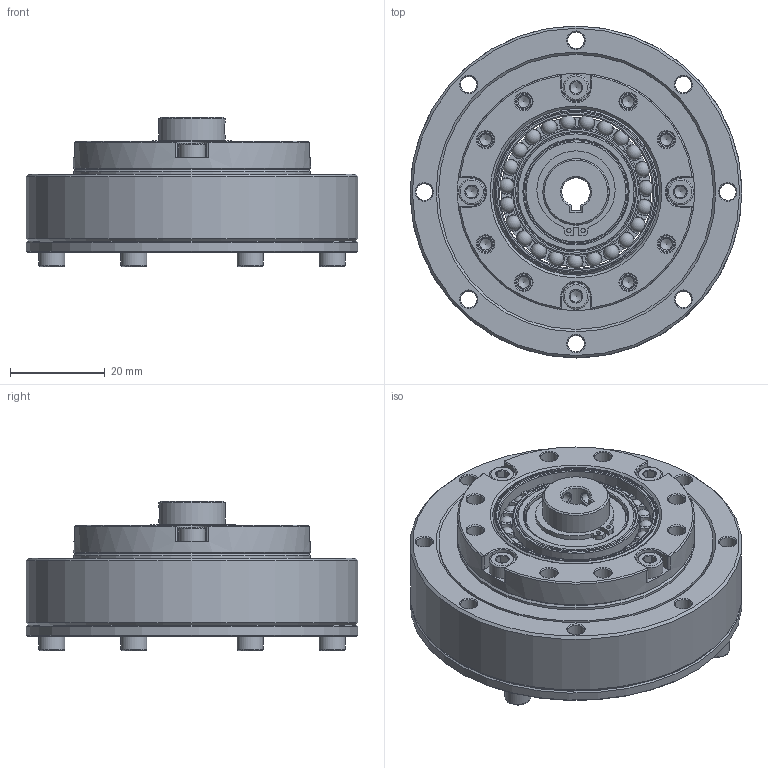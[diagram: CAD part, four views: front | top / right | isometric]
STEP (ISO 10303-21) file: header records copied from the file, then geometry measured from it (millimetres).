
FILE_DESCRIPTION(/* description */ (''),/* implementation_level */ '2;1');
FILE_NAME(/* name */ 'LHG-14-XX-U-II-φ6.stp',/* time_stamp */ '2023-07-08T16:14:38+08:00',/* author */ (''),/* organization */ (''),/* preprocessor_version */ 'ST-DEVELOPER v16.7',/* originating_system */ 'SIEMENS PLM Software NX 12.0',/* authorisation */ '');
FILE_SCHEMA (('AUTOMOTIVE_DESIGN { 1 0 10303 214 3 1 1 1 }'));
Length unit declared in the file: millimetre
Products named in the file (17): EB253406-14KC-46; EB253406-14KE-01; TC-50x58x4; O-38x0.5; O-54x1.5; GB-T70.1-2000,M3x8; GB-T70.1-2000,M3x6; 轴用弹性挡圈φ14; 铜垫圈14.5x21.5x1; CS-14-00-02; CS-14-00-01-K6; CS-14-XX-03; 刚轮LHT-14-I; 柔轮LHT-14; EB253406-14KE ; 交叉轴承LHT-14; LHG-14-XX-U-II-φ6
Assembly tree (22 placements, depth 3):
  LHG-14-XX-U-II-φ6
    交叉轴承LHT-14
      TC-50x58x4
    柔轮LHT-14
    刚轮LHT-14-I
    EB253406-14KE 
      EB253406-14KE-01
      EB253406-14KC-46
    CS-14-XX-03
    CS-14-00-01-K6
    CS-14-00-02
    铜垫圈14.5x21.5x1
    轴用弹性挡圈φ14
    GB-T70.1-2000,M3x6  x4
    GB-T70.1-2000,M3x8  x4
    O-54x1.5
    O-38x0.5
Bounding box: 70 x 70 x 31.5 mm (x, y, z)
Volume: 54451.2 mm3; surface area: 49043.4 mm2
Topology: 46 solids, 46 shells, 859 faces, 2049 edges, 1258 vertices
Faces by surface type: plane 327, cone 218, cylinder 194, torus 91, sphere 23, bspline 4, revolution 2
Full cylindrical faces by diameter (mm): 0.933 x2, 2.5 x20, 2.874 x8, 3.5 x34, 5.5 x8, 13.4 x1, 14 x2, 14.5 x3, 21.5 x1, 22 x1, 23 x2, 25.07 x2, 26.71 x2, 27.45 x1, 29.7 x1, 31.5 x1, 32.36 x2, 33.92 x2, 34.41 x1, 35.03 x1, 35.16 x1, 35.6 x1, 38 x2, 38.6 x1, 39.4 x1, 45.8 x1, 48 x1, 50 x4, 50.6 x2, 54 x1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
Entity records: 20705 total; most frequent: CARTESIAN_POINT 5009, DIRECTION 3294, ORIENTED_EDGE 2618, AXIS2_PLACEMENT_3D 1439, EDGE_CURVE 1309, EDGE_LOOP 1070, VERTEX_POINT 1010, FACE_BOUND 774
